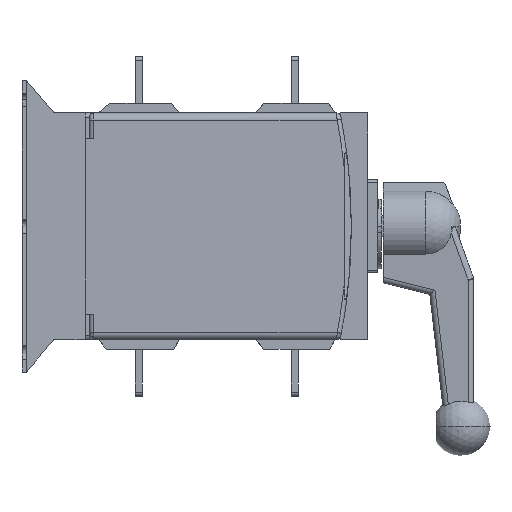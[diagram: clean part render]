
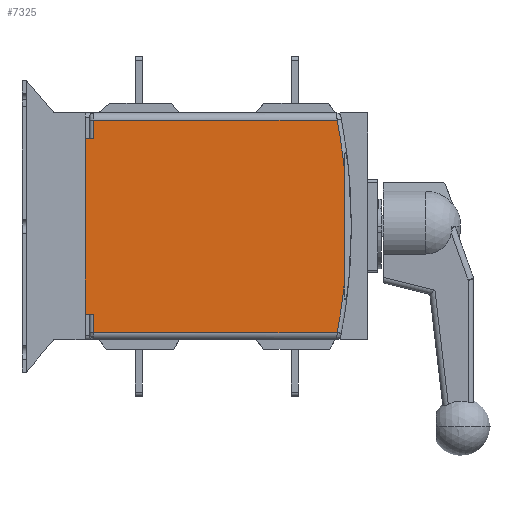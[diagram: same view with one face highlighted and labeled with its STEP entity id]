
A CAD part, left-side view. The second image highlights one B-rep face of the part: STEP entity #7325.
In plain terms, the highlighted planar face has unit normal (-1, 0, 0).
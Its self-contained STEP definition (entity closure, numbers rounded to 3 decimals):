
#310=DIRECTION('',(0.,0.,-1.));
#311=VECTOR('',#310,13.);
#312=CARTESIAN_POINT('',(-115.,-3.,-62.));
#313=LINE('',#312,#311);
#318=DIRECTION('',(0.,0.,1.));
#319=VECTOR('',#318,124.);
#320=CARTESIAN_POINT('',(-115.,3.,-62.));
#321=LINE('',#320,#319);
#322=CARTESIAN_POINT('',(-114.98,227.755,-1.181));
#323=DIRECTION('',(1.,0.,0.));
#324=DIRECTION('',(0.,-0.983,0.186));
#325=AXIS2_PLACEMENT_3D('',#322,#323,#324);
#327=CARTESIAN_POINT('',(-114.983,228.152,1.238));
#328=DIRECTION('',(1.,0.,0.));
#329=DIRECTION('',(0.,-0.994,-0.106));
#330=AXIS2_PLACEMENT_3D('',#327,#328,#329);
#332=DIRECTION('',(0.,-1.,0.));
#333=VECTOR('',#332,6.);
#334=CARTESIAN_POINT('',(-115.,3.,-62.));
#335=LINE('',#334,#333);
#722=DIRECTION('',(0.,1.,0.));
#723=VECTOR('',#722,6.);
#724=CARTESIAN_POINT('',(-115.,-3.,62.));
#725=LINE('',#724,#723);
#734=DIRECTION('',(0.,0.,-1.));
#735=VECTOR('',#734,13.);
#736=CARTESIAN_POINT('',(-115.,-3.,75.));
#737=LINE('',#736,#735);
#1685=DIRECTION('',(0.,-1.,0.));
#1686=VECTOR('',#1685,171.917);
#1687=CARTESIAN_POINT('',(-115.,-3.,-75.));
#1688=LINE('',#1687,#1686);
#1783=DIRECTION('',(0.,0.,1.));
#1784=VECTOR('',#1783,84.152);
#1785=CARTESIAN_POINT('',(-115.,-179.77,
-42.078));
#1786=LINE('',#1785,#1784);
#1914=DIRECTION('',(0.,1.,0.));
#1915=VECTOR('',#1914,171.916);
#1916=CARTESIAN_POINT('',(-115.,-174.916,
75.));
#1917=LINE('',#1916,#1915);
#5548=CARTESIAN_POINT('',(-115.,-3.,-62.));
#5549=CARTESIAN_POINT('',(-115.,-3.,-75.));
#5550=VERTEX_POINT('',#5548);
#5551=VERTEX_POINT('',#5549);
#5552=CARTESIAN_POINT('',(-115.,3.,-62.));
#5553=VERTEX_POINT('',#5552);
#5554=CARTESIAN_POINT('',(-115.,3.,62.));
#5555=VERTEX_POINT('',#5554);
#5556=CARTESIAN_POINT('',(-115.,-3.,62.));
#5557=VERTEX_POINT('',#5556);
#5558=CARTESIAN_POINT('',(-115.,-3.,
75.));
#5559=VERTEX_POINT('',#5558);
#5560=CARTESIAN_POINT('',(-115.,-174.916,
75.));
#5561=VERTEX_POINT('',#5560);
#5562=CARTESIAN_POINT('',(-115.,-179.77,
42.073));
#5563=VERTEX_POINT('',#5562);
#5564=CARTESIAN_POINT('',(-115.,-179.77,
-42.078));
#5565=VERTEX_POINT('',#5564);
#5566=CARTESIAN_POINT('',(-115.,-174.917,
-75.));
#5567=VERTEX_POINT('',#5566);
#7299=CARTESIAN_POINT('',(-115.,0.,-80.));
#7300=DIRECTION('',(-1.,0.,0.));
#7301=DIRECTION('',(0.,0.,1.));
#7302=AXIS2_PLACEMENT_3D('',#7299,#7300,#7301);
#7303=PLANE('',#7302);
#7304=ORIENTED_EDGE('',*,*,#7289,.F.);
#7306=ORIENTED_EDGE('',*,*,#7305,.F.);
#7308=ORIENTED_EDGE('',*,*,#7307,.T.);
#7310=ORIENTED_EDGE('',*,*,#7309,.F.);
#7312=ORIENTED_EDGE('',*,*,#7311,.F.);
#7314=ORIENTED_EDGE('',*,*,#7313,.F.);
#7316=ORIENTED_EDGE('',*,*,#7315,.T.);
#7318=ORIENTED_EDGE('',*,*,#7317,.F.);
#7320=ORIENTED_EDGE('',*,*,#7319,.T.);
#7322=ORIENTED_EDGE('',*,*,#7321,.F.);
#7323=EDGE_LOOP('',(#7304,#7306,#7308,#7310,#7312,#7314,#7316,#7318,#7320,
#7322));
#7324=FACE_OUTER_BOUND('',#7323,.F.);
#326=CIRCLE('',#325,409.814);
#331=CIRCLE('',#330,410.215);
#7289=EDGE_CURVE('',#5550,#5551,#313,.T.);
#7305=EDGE_CURVE('',#5553,#5550,#335,.T.);
#7307=EDGE_CURVE('',#5553,#5555,#321,.T.);
#7309=EDGE_CURVE('',#5557,#5555,#725,.T.);
#7311=EDGE_CURVE('',#5559,#5557,#737,.T.);
#7313=EDGE_CURVE('',#5561,#5559,#1917,.T.);
#7315=EDGE_CURVE('',#5561,#5563,#326,.T.);
#7317=EDGE_CURVE('',#5565,#5563,#1786,.T.);
#7319=EDGE_CURVE('',#5565,#5567,#331,.T.);
#7321=EDGE_CURVE('',#5551,#5567,#1688,.T.);
#7325=ADVANCED_FACE('',(#7324),#7303,.T.);
